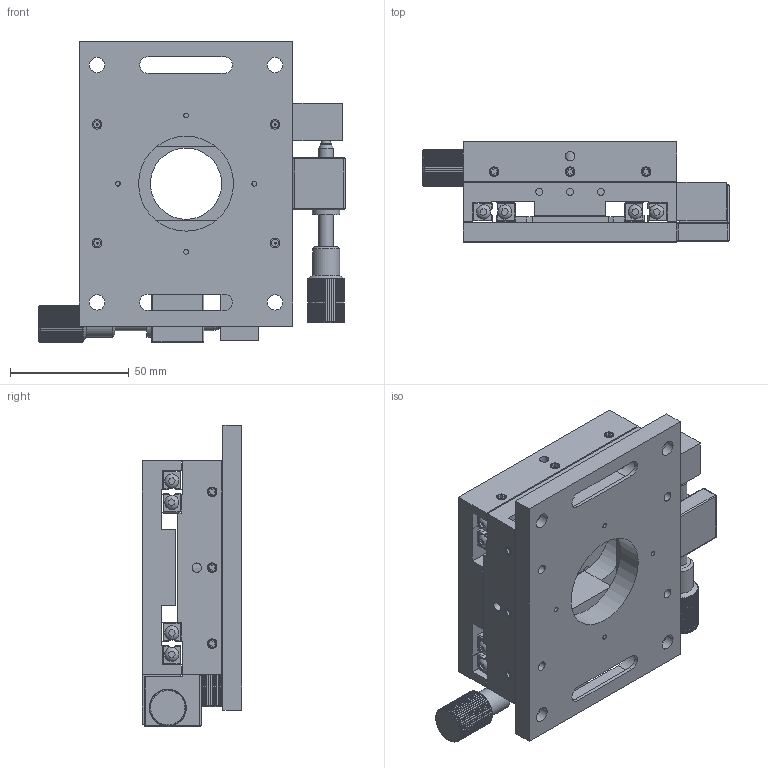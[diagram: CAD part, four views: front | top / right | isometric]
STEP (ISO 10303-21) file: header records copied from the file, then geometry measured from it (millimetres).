
FILE_DESCRIPTION (( 'STEP AP203' ), '1' );
FILE_NAME ('TSS90HXY-1A.step', '2017-01-10T09:23:11', ( '¦K¬P' ), ( '' ), 'SwSTEP 2.0', 'SolidWorks 2012', '' );
FILE_SCHEMA (( 'CONFIG_CONTROL_DESIGN' ));
Length unit declared in the file: millimetre
Products named in the file (1): TSS90HXY-1A
Bounding box: 129 x 42 x 127 mm (x, y, z)
Surface area: 100516.5 mm2 (no closed solid volume)
Topology: 0 solids, 62 shells, 987 faces, 3005 edges, 2051 vertices
Faces by surface type: plane 683, cylinder 244, cone 30, torus 17, sphere 13
Full cylindrical faces by diameter (mm): 1.7 x4, 2 x8, 3 x11, 4 x24, 5 x2, 5.4 x3, 6 x30, 6.5 x4, 8 x2, 10 x2, 11 x4, 11.4 x2, 11.5 x2, 30 x1, 40 x1
Entity records: 34016 total; most frequent: CARTESIAN_POINT 8374, ORIENTED_EDGE 5047, DIRECTION 4871, EDGE_CURVE 2803, VERTEX_POINT 2011, AXIS2_PLACEMENT_3D 1624, VECTOR 1623, LINE 1623
